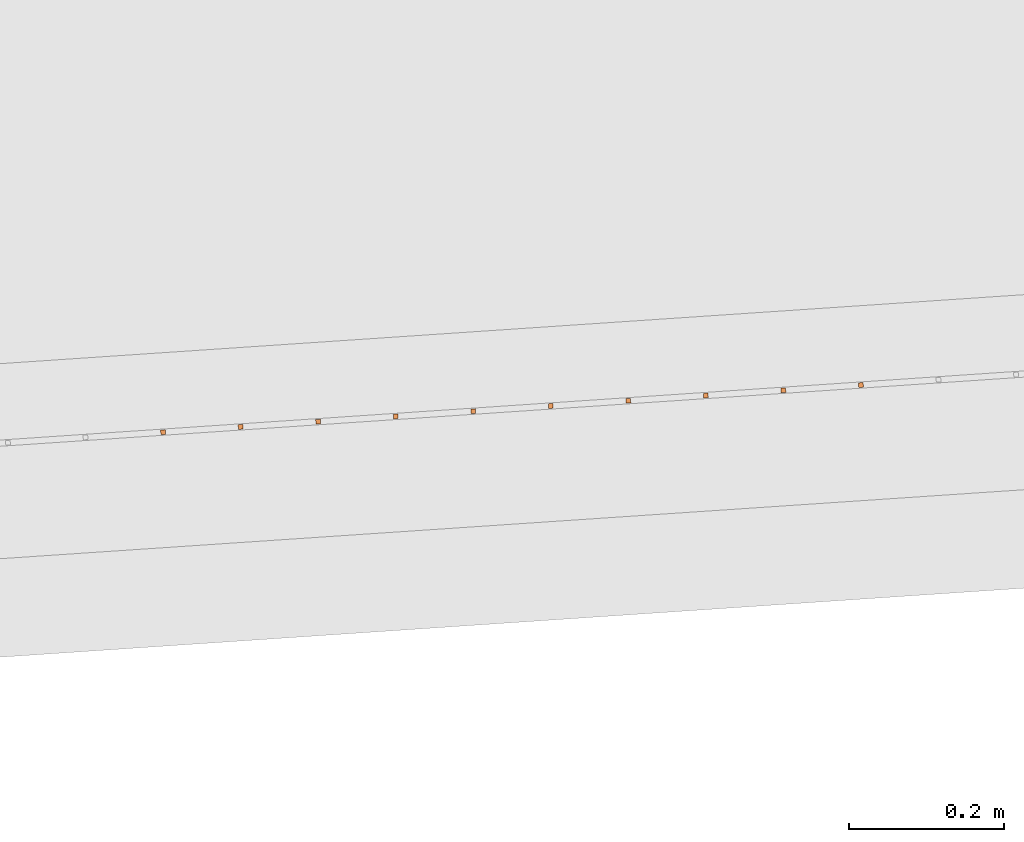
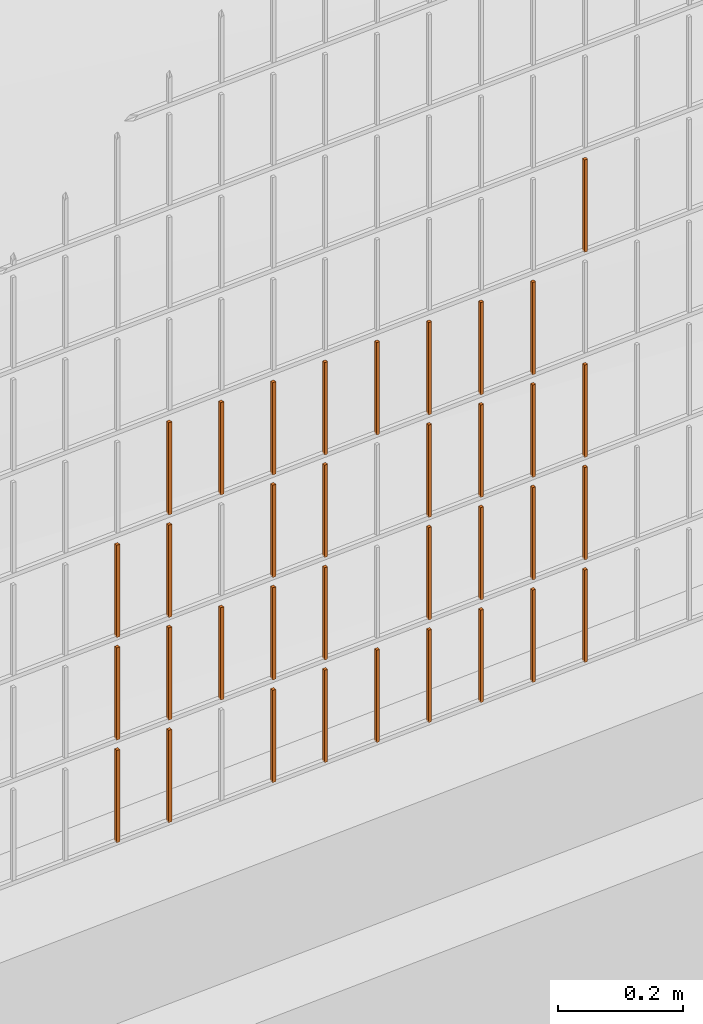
# One storey, part 398 of 1809: 35 proxies, 1 element without a shape of its own.
"""IFC2X3 building model written with IfcOpenShell, lengths in millimetres."""

from ifc_helpers import new_model, entity, si_unit, converted_unit, derived_unit, money_unit, direction, frame, origin_with_axes, place, context, subcontext, project, spatial, faceted_brep, source, transform, mapped, material, type_object, element, aggregate, save


model = new_model("IFC2X3")

# Units and contexts
model_context = context("Model", 3, precision=0.01, world=origin_with_axes(), true_north=direction((0.0, 1.0)))
body_context = subcontext(model_context, "Body", "Model", "MODEL_VIEW")
ifc_project = project(units=[si_unit("LENGTHUNIT", "METRE", prefix="MILLI"), si_unit("AREAUNIT", "SQUARE_METRE"), si_unit("VOLUMEUNIT", "CUBIC_METRE"), converted_unit("PLANEANGLEUNIT", "DEGREE", entity("IfcPlaneAngleMeasure", 0.0174532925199), si_unit("PLANEANGLEUNIT", "RADIAN"), dimensions=[0, 0, 0, 0, 0, 0, 0]), si_unit("SOLIDANGLEUNIT", "STERADIAN"), money_unit("EUR"), converted_unit("TIMEUNIT", "Year", entity("IfcTimeMeasure", 31556926.0), si_unit("TIMEUNIT", "SECOND"), dimensions=[0, 0, 1, 0, 0, 0, 0]), si_unit("MASSUNIT", "GRAM", prefix="KILO"), si_unit("THERMODYNAMICTEMPERATUREUNIT", "DEGREE_CELSIUS"), si_unit("LUMINOUSINTENSITYUNIT", "LUMEN"), si_unit("ENERGYUNIT", "JOULE", prefix="MEGA"), derived_unit("THERMALCONDUCTANCEUNIT", [(si_unit("POWERUNIT", "WATT"), 1), (si_unit("LENGTHUNIT", "METRE"), -1), (si_unit("THERMODYNAMICTEMPERATUREUNIT", "KELVIN"), -1)]), derived_unit("SPECIFICHEATCAPACITYUNIT", [(si_unit("ENERGYUNIT", "JOULE"), 1), (si_unit("MASSUNIT", "GRAM", prefix="KILO"), -1), (si_unit("THERMODYNAMICTEMPERATUREUNIT", "KELVIN"), -1)]), derived_unit("MASSDENSITYUNIT", [(si_unit("MASSUNIT", "GRAM", prefix="KILO"), 1), (si_unit("VOLUMEUNIT", "CUBIC_METRE"), -1)])], contexts=[model_context])

# Site, building, storey
site_placement = place(None, origin_with_axes())
site = spatial("IfcSite", under=ifc_project, at=site_placement, Name="Politse- ja Piirivalveameti ning Päästeameti ühishoone", CompositionType="ELEMENT")
building_placement = place(site_placement, origin_with_axes())
building = spatial("IfcBuilding", under=site, at=building_placement, Name="Politse- ja Piirivalveameti ning Päästeameti ühishoone", CompositionType="ELEMENT")
storey_placement = place(building_placement, origin_with_axes())
storey = spatial("IfcBuildingStorey", under=building, at=storey_placement, Name="Esimene korrus", CompositionType="ELEMENT", Elevation=0.0)

# Proxies
building_element_proxy_type_1 = type_object("IfcBuildingElementProxyType", Name="Railing Type", PredefinedType="NOTDEFINED")
proxy_1_placement = place(storey_placement, frame((89252.001212, -29183.4766571, 203.661247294), z_axis=(0.0, 0.0, 1.0), x_axis=(1.0, 0.0, 0.0)))
proxy_1 = element("IfcBuildingElementProxy", 1, at=proxy_1_placement, inside=storey, type_object=building_element_proxy_type_1, Name="PIIRDEAED")
ifc_material = material(Name="ET-03_Raud")
building_element_proxy_type_2 = type_object("IfcBuildingElementProxyType", Name="IfcBuildingElementProxy", PredefinedType="NOTDEFINED")
shared_shape_1 = source(origin_with_axes(), body_context, "Body", "Brep", [
    faceted_brep([(3.0, 3.0, -0.000752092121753), (-3.0, 3.0, -0.000752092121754), (-3.0, 3.0, 179.99926046), (3.0, 3.0, 179.99926046), (3.0, -3.0, 0.000752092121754), (-3.0, -3.0, 0.000752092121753), (-3.0, -3.0, 180.000764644), (3.0, -3.0, 180.000764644)], [[[0, 1, 2, 3]], [[0, 4, 5, 1]], [[1, 5, 6, 2]], [[3, 2, 6, 7]], [[4, 0, 3, 7]], [[5, 4, 7, 6]]]),
])
proxy_2_placement = place(proxy_1_placement, frame((-10203.4379036, -17986.9784856, 24.6705816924), z_axis=(0.0, 0.0, 1.0), x_axis=(1.0, 0.0, 0.0)))
proxy_2 = element("IfcBuildingElementProxy", 2, at=proxy_2_placement, type_object=building_element_proxy_type_2, material=ifc_material, Name="BALUSTER - 001", context=body_context, shape_type="MappedRepresentation", body=[
    mapped(shared_shape_1, transform((0.0, 0.0, 0.0), x_axis=(-0.0673926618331, 0.997726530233, 0.0), y_axis=(-0.997726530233, -0.0673926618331, 0.0), z_axis=(0.0, 0.0, 1.0))),
])
shared_shape_2 = source(origin_with_axes(), body_context, "Body", "Brep", [
    faceted_brep([(3.0, 3.0, -0.000752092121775), (-3.0, 3.0, -0.000752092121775), (-3.0, 3.0, 179.99926046), (3.0, 3.0, 179.99926046), (3.0, -3.0, 0.000752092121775), (-3.0, -3.0, 0.000752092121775), (-3.0, -3.0, 180.000764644), (3.0, -3.0, 180.000764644)], [[[0, 1, 2, 3]], [[0, 4, 5, 1]], [[1, 5, 6, 2]], [[3, 2, 6, 7]], [[4, 0, 3, 7]], [[5, 4, 7, 6]]]),
])
proxy_3_placement = place(proxy_1_placement, frame((-10802.0738217, -18027.4140827, 24.5201632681), z_axis=(0.0, 0.0, 1.0), x_axis=(1.0, 0.0, 0.0)))
proxy_3 = element("IfcBuildingElementProxy", 3, at=proxy_3_placement, type_object=building_element_proxy_type_2, material=ifc_material, Name="BALUSTER - 001", context=body_context, shape_type="MappedRepresentation", body=[
    mapped(shared_shape_2, transform((0.0, 0.0, 0.0), x_axis=(-0.0673926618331, 0.997726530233, 0.0), y_axis=(-0.997726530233, -0.0673926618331, 0.0), z_axis=(0.0, 0.0, 1.0))),
])
shared_shape_3 = source(origin_with_axes(), body_context, "Body", "Brep", [
    faceted_brep([(3.0, 3.0, -0.000752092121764), (-3.0, 3.0, -0.000752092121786), (-3.0, 3.0, 179.99926046), (3.0, 3.0, 179.99926046), (3.0, -3.0, 0.000752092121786), (-3.0, -3.0, 0.000752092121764), (-3.0, -3.0, 180.000764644), (3.0, -3.0, 180.000764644)], [[[0, 1, 2, 3]], [[0, 4, 5, 1]], [[1, 5, 6, 2]], [[3, 2, 6, 7]], [[4, 0, 3, 7]], [[5, 4, 7, 6]]]),
])
proxy_4_placement = place(proxy_1_placement, frame((-10502.7558626, -18007.1962842, 24.5953724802), z_axis=(0.0, 0.0, 1.0), x_axis=(1.0, 0.0, 0.0)))
proxy_4 = element("IfcBuildingElementProxy", 4, at=proxy_4_placement, type_object=building_element_proxy_type_2, material=ifc_material, Name="BALUSTER - 001", context=body_context, shape_type="MappedRepresentation", body=[
    mapped(shared_shape_3, transform((0.0, 0.0, 0.0), x_axis=(-0.0673926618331, 0.997726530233, 0.0), y_axis=(-0.997726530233, -0.0673926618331, 0.0), z_axis=(0.0, 0.0, 1.0))),
])
shared_shape_4 = source(origin_with_axes(), body_context, "Body", "Brep", [
    faceted_brep([(3.0, 3.0, -0.000752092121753), (-3.0, 3.0, -0.000752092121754), (-3.0, 3.0, 179.99926046), (3.0, 3.0, 179.99926046), (3.0, -3.0, 0.000752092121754), (-3.0, -3.0, 0.000752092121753), (-3.0, -3.0, 180.000764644), (3.0, -3.0, 180.000764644)], [[[0, 1, 2, 3]], [[0, 4, 5, 1]], [[1, 5, 6, 2]], [[3, 2, 6, 7]], [[4, 0, 3, 7]], [[5, 4, 7, 6]]]),
])
proxy_5_placement = place(proxy_1_placement, frame((-10203.4379036, -17986.9784856, 224.670581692), z_axis=(0.0, 0.0, 1.0), x_axis=(1.0, 0.0, 0.0)))
proxy_5 = element("IfcBuildingElementProxy", 5, at=proxy_5_placement, type_object=building_element_proxy_type_2, material=ifc_material, Name="BALUSTER - 001", context=body_context, shape_type="MappedRepresentation", body=[
    mapped(shared_shape_4, transform((0.0, 0.0, 0.0), x_axis=(-0.0673926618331, 0.997726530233, 0.0), y_axis=(-0.997726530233, -0.0673926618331, 0.0), z_axis=(0.0, 0.0, 1.0))),
])
shared_shape_5 = source(origin_with_axes(), body_context, "Body", "Brep", [
    faceted_brep([(3.0, 3.0, -0.000752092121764), (-3.0, 3.0, -0.000752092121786), (-3.0, 3.0, 179.99926046), (3.0, 3.0, 179.99926046), (3.0, -3.0, 0.000752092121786), (-3.0, -3.0, 0.000752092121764), (-3.0, -3.0, 180.000764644), (3.0, -3.0, 180.000764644)], [[[0, 1, 2, 3]], [[0, 4, 5, 1]], [[1, 5, 6, 2]], [[3, 2, 6, 7]], [[4, 0, 3, 7]], [[5, 4, 7, 6]]]),
])
proxy_6_placement = place(proxy_1_placement, frame((-10502.7558626, -18007.1962842, 224.59537248), z_axis=(0.0, 0.0, 1.0), x_axis=(1.0, 0.0, 0.0)))
proxy_6 = element("IfcBuildingElementProxy", 6, at=proxy_6_placement, type_object=building_element_proxy_type_2, material=ifc_material, Name="BALUSTER - 001", context=body_context, shape_type="MappedRepresentation", body=[
    mapped(shared_shape_5, transform((0.0, 0.0, 0.0), x_axis=(-0.0673926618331, 0.997726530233, 0.0), y_axis=(-0.997726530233, -0.0673926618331, 0.0), z_axis=(0.0, 0.0, 1.0))),
])
shared_shape_6 = source(origin_with_axes(), body_context, "Body", "Brep", [
    faceted_brep([(3.0, 3.0, -0.000752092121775), (-3.0, 3.0, -0.000752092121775), (-3.0, 3.0, 179.99926046), (3.0, 3.0, 179.99926046), (3.0, -3.0, 0.000752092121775), (-3.0, -3.0, 0.000752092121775), (-3.0, -3.0, 180.000764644), (3.0, -3.0, 180.000764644)], [[[0, 1, 2, 3]], [[0, 4, 5, 1]], [[1, 5, 6, 2]], [[3, 2, 6, 7]], [[4, 0, 3, 7]], [[5, 4, 7, 6]]]),
])
proxy_7_placement = place(proxy_1_placement, frame((-10802.0738217, -18027.4140827, 224.520163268), z_axis=(0.0, 0.0, 1.0), x_axis=(1.0, 0.0, 0.0)))
proxy_7 = element("IfcBuildingElementProxy", 7, at=proxy_7_placement, type_object=building_element_proxy_type_2, material=ifc_material, Name="BALUSTER - 001", context=body_context, shape_type="MappedRepresentation", body=[
    mapped(shared_shape_6, transform((0.0, 0.0, 0.0), x_axis=(-0.0673926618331, 0.997726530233, 0.0), y_axis=(-0.997726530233, -0.0673926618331, 0.0), z_axis=(0.0, 0.0, 1.0))),
])
proxy_8_placement = place(proxy_1_placement, frame((-11001.6191277, -18040.8926151, 224.470023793), z_axis=(0.0, 0.0, 1.0), x_axis=(1.0, 0.0, 0.0)))
proxy_8 = element("IfcBuildingElementProxy", 8, at=proxy_8_placement, type_object=building_element_proxy_type_2, material=ifc_material, Name="BALUSTER - 001", context=body_context, shape_type="MappedRepresentation", body=[
    mapped(shared_shape_6, transform((0.0, 0.0, 0.0), x_axis=(-0.0673926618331, 0.997726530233, 0.0), y_axis=(-0.997726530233, -0.0673926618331, 0.0), z_axis=(0.0, 0.0, 1.0))),
])
proxy_9_placement = place(proxy_1_placement, frame((-10802.0738217, -18027.4140827, 424.520163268), z_axis=(0.0, 0.0, 1.0), x_axis=(1.0, 0.0, 0.0)))
proxy_9 = element("IfcBuildingElementProxy", 9, at=proxy_9_placement, type_object=building_element_proxy_type_2, material=ifc_material, Name="BALUSTER - 001", context=body_context, shape_type="MappedRepresentation", body=[
    mapped(shared_shape_6, transform((0.0, 0.0, 0.0), x_axis=(-0.0673926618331, 0.997726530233, 0.0), y_axis=(-0.997726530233, -0.0673926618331, 0.0), z_axis=(0.0, 0.0, 1.0))),
])
proxy_10_placement = place(proxy_1_placement, frame((-11001.6191277, -18040.8926151, 424.470023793), z_axis=(0.0, 0.0, 1.0), x_axis=(1.0, 0.0, 0.0)))
proxy_10 = element("IfcBuildingElementProxy", 10, at=proxy_10_placement, type_object=building_element_proxy_type_2, material=ifc_material, Name="BALUSTER - 001", context=body_context, shape_type="MappedRepresentation", body=[
    mapped(shared_shape_6, transform((0.0, 0.0, 0.0), x_axis=(-0.0673926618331, 0.997726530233, 0.0), y_axis=(-0.997726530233, -0.0673926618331, 0.0), z_axis=(0.0, 0.0, 1.0))),
])
shared_shape_7 = source(origin_with_axes(), body_context, "Body", "Brep", [
    faceted_brep([(3.0, 3.0, -0.000752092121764), (-3.0, 3.0, -0.000752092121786), (-3.0, 3.0, 179.99926046), (3.0, 3.0, 179.99926046), (3.0, -3.0, 0.000752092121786), (-3.0, -3.0, 0.000752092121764), (-3.0, -3.0, 180.000764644), (3.0, -3.0, 180.000764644)], [[[0, 1, 2, 3]], [[0, 4, 5, 1]], [[1, 5, 6, 2]], [[3, 2, 6, 7]], [[4, 0, 3, 7]], [[5, 4, 7, 6]]]),
])
proxy_11_placement = place(proxy_1_placement, frame((-10402.9832096, -18000.457018, 224.620442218), z_axis=(0.0, 0.0, 1.0), x_axis=(1.0, 0.0, 0.0)))
proxy_11 = element("IfcBuildingElementProxy", 11, at=proxy_11_placement, type_object=building_element_proxy_type_2, material=ifc_material, Name="BALUSTER - 001", context=body_context, shape_type="MappedRepresentation", body=[
    mapped(shared_shape_7, transform((0.0, 0.0, 0.0), x_axis=(-0.0673926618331, 0.997726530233, 0.0), y_axis=(-0.997726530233, -0.0673926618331, 0.0), z_axis=(0.0, 0.0, 1.0))),
])
shared_shape_8 = source(origin_with_axes(), body_context, "Body", "Brep", [
    faceted_brep([(3.0, 3.0, -0.000752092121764), (-3.0, 3.0, -0.000752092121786), (-3.0, 3.0, 179.99926046), (3.0, 3.0, 179.99926046), (3.0, -3.0, 0.000752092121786), (-3.0, -3.0, 0.000752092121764), (-3.0, -3.0, 180.000764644), (3.0, -3.0, 180.000764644)], [[[0, 1, 2, 3]], [[0, 4, 5, 1]], [[1, 5, 6, 2]], [[3, 2, 6, 7]], [[4, 0, 3, 7]], [[5, 4, 7, 6]]]),
])
proxy_12_placement = place(proxy_1_placement, frame((-10402.9832096, -18000.457018, 424.620442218), z_axis=(0.0, 0.0, 1.0), x_axis=(1.0, 0.0, 0.0)))
proxy_12 = element("IfcBuildingElementProxy", 12, at=proxy_12_placement, type_object=building_element_proxy_type_2, material=ifc_material, Name="BALUSTER - 001", context=body_context, shape_type="MappedRepresentation", body=[
    mapped(shared_shape_8, transform((0.0, 0.0, 0.0), x_axis=(-0.0673926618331, 0.997726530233, 0.0), y_axis=(-0.997726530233, -0.0673926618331, 0.0), z_axis=(0.0, 0.0, 1.0))),
])
proxy_13_placement = place(proxy_1_placement, frame((-10502.7558626, -18007.1962842, 424.59537248), z_axis=(0.0, 0.0, 1.0), x_axis=(1.0, 0.0, 0.0)))
proxy_13 = element("IfcBuildingElementProxy", 13, at=proxy_13_placement, type_object=building_element_proxy_type_2, material=ifc_material, Name="BALUSTER - 001", context=body_context, shape_type="MappedRepresentation", body=[
    mapped(shared_shape_8, transform((0.0, 0.0, 0.0), x_axis=(-0.0673926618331, 0.997726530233, 0.0), y_axis=(-0.997726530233, -0.0673926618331, 0.0), z_axis=(0.0, 0.0, 1.0))),
])
proxy_14_placement = place(proxy_1_placement, frame((-10702.3011687, -18020.6748165, 424.545233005), z_axis=(0.0, 0.0, 1.0), x_axis=(1.0, 0.0, 0.0)))
proxy_14 = element("IfcBuildingElementProxy", 14, at=proxy_14_placement, type_object=building_element_proxy_type_2, material=ifc_material, Name="BALUSTER - 001", context=body_context, shape_type="MappedRepresentation", body=[
    mapped(shared_shape_8, transform((0.0, 0.0, 0.0), x_axis=(-0.0673926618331, 0.997726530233, 0.0), y_axis=(-0.997726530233, -0.0673926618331, 0.0), z_axis=(0.0, 0.0, 1.0))),
])
proxy_15_placement = place(proxy_1_placement, frame((-10402.9832096, -18000.457018, 624.620442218), z_axis=(0.0, 0.0, 1.0), x_axis=(1.0, 0.0, 0.0)))
proxy_15 = element("IfcBuildingElementProxy", 15, at=proxy_15_placement, type_object=building_element_proxy_type_2, material=ifc_material, Name="BALUSTER - 001", context=body_context, shape_type="MappedRepresentation", body=[
    mapped(shared_shape_8, transform((0.0, 0.0, 0.0), x_axis=(-0.0673926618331, 0.997726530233, 0.0), y_axis=(-0.997726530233, -0.0673926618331, 0.0), z_axis=(0.0, 0.0, 1.0))),
])
shared_shape_9 = source(origin_with_axes(), body_context, "Body", "Brep", [
    faceted_brep([(3.0, 3.0, -0.000752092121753), (-3.0, 3.0, -0.000752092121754), (-3.0, 3.0, 179.99926046), (3.0, 3.0, 179.99926046), (3.0, -3.0, 0.000752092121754), (-3.0, -3.0, 0.000752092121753), (-3.0, -3.0, 180.000764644), (3.0, -3.0, 180.000764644)], [[[0, 1, 2, 3]], [[0, 4, 5, 1]], [[1, 5, 6, 2]], [[3, 2, 6, 7]], [[4, 0, 3, 7]], [[5, 4, 7, 6]]]),
])
proxy_16_placement = place(proxy_1_placement, frame((-10203.4379036, -17986.9784856, 824.670581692), z_axis=(0.0, 0.0, 1.0), x_axis=(1.0, 0.0, 0.0)))
proxy_16 = element("IfcBuildingElementProxy", 16, at=proxy_16_placement, type_object=building_element_proxy_type_2, material=ifc_material, Name="BALUSTER - 001", context=body_context, shape_type="MappedRepresentation", body=[
    mapped(shared_shape_9, transform((0.0, 0.0, 0.0), x_axis=(-0.0673926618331, 0.997726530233, 0.0), y_axis=(-0.997726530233, -0.0673926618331, 0.0), z_axis=(0.0, 0.0, 1.0))),
])
shared_shape_10 = source(origin_with_axes(), body_context, "Body", "Brep", [
    faceted_brep([(3.0, 3.0, -0.000752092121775), (-3.0, 3.0, -0.000752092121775), (-3.0, 3.0, 179.99926046), (3.0, 3.0, 179.99926046), (3.0, -3.0, 0.000752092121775), (-3.0, -3.0, 0.000752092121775), (-3.0, -3.0, 180.000764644), (3.0, -3.0, 180.000764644)], [[[0, 1, 2, 3]], [[0, 4, 5, 1]], [[1, 5, 6, 2]], [[3, 2, 6, 7]], [[4, 0, 3, 7]], [[5, 4, 7, 6]]]),
])
proxy_17_placement = place(proxy_1_placement, frame((-10802.0738217, -18027.4140827, 624.520163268), z_axis=(0.0, 0.0, 1.0), x_axis=(1.0, 0.0, 0.0)))
proxy_17 = element("IfcBuildingElementProxy", 17, at=proxy_17_placement, type_object=building_element_proxy_type_2, material=ifc_material, Name="BALUSTER - 001", context=body_context, shape_type="MappedRepresentation", body=[
    mapped(shared_shape_10, transform((0.0, 0.0, 0.0), x_axis=(-0.0673926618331, 0.997726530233, 0.0), y_axis=(-0.997726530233, -0.0673926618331, 0.0), z_axis=(0.0, 0.0, 1.0))),
])
shared_shape_11 = source(origin_with_axes(), body_context, "Body", "Brep", [
    faceted_brep([(3.0, 3.0, -0.000752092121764), (-3.0, 3.0, -0.000752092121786), (-3.0, 3.0, 179.99926046), (3.0, 3.0, 179.99926046), (3.0, -3.0, 0.000752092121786), (-3.0, -3.0, 0.000752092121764), (-3.0, -3.0, 180.000764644), (3.0, -3.0, 180.000764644)], [[[0, 1, 2, 3]], [[0, 4, 5, 1]], [[1, 5, 6, 2]], [[3, 2, 6, 7]], [[4, 0, 3, 7]], [[5, 4, 7, 6]]]),
])
proxy_18_placement = place(proxy_1_placement, frame((-10502.7558626, -18007.1962842, 624.59537248), z_axis=(0.0, 0.0, 1.0), x_axis=(1.0, 0.0, 0.0)))
proxy_18 = element("IfcBuildingElementProxy", 18, at=proxy_18_placement, type_object=building_element_proxy_type_2, material=ifc_material, Name="BALUSTER - 001", context=body_context, shape_type="MappedRepresentation", body=[
    mapped(shared_shape_11, transform((0.0, 0.0, 0.0), x_axis=(-0.0673926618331, 0.997726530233, 0.0), y_axis=(-0.997726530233, -0.0673926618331, 0.0), z_axis=(0.0, 0.0, 1.0))),
])
shared_shape_12 = source(origin_with_axes(), body_context, "Body", "Brep", [
    faceted_brep([(3.0, 3.0, -0.000752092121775), (-3.0, 3.0, -0.000752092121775), (-3.0, 3.0, 179.99926046), (3.0, 3.0, 179.99926046), (3.0, -3.0, 0.000752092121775), (-3.0, -3.0, 0.000752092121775), (-3.0, -3.0, 180.000764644), (3.0, -3.0, 180.000764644)], [[[0, 1, 2, 3]], [[0, 4, 5, 1]], [[1, 5, 6, 2]], [[3, 2, 6, 7]], [[4, 0, 3, 7]], [[5, 4, 7, 6]]]),
])
proxy_19_placement = place(proxy_1_placement, frame((-11001.6191277, -18040.8926151, 24.4700237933), z_axis=(0.0, 0.0, 1.0), x_axis=(1.0, 0.0, 0.0)))
proxy_19 = element("IfcBuildingElementProxy", 19, at=proxy_19_placement, type_object=building_element_proxy_type_2, material=ifc_material, Name="BALUSTER - 001", context=body_context, shape_type="MappedRepresentation", body=[
    mapped(shared_shape_12, transform((0.0, 0.0, 0.0), x_axis=(-0.0673926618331, 0.997726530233, 0.0), y_axis=(-0.997726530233, -0.0673926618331, 0.0), z_axis=(0.0, 0.0, 1.0))),
])
shared_shape_13 = source(origin_with_axes(), body_context, "Body", "Brep", [
    faceted_brep([(3.0, 3.0, -0.000752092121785), (-3.0, 3.0, -0.000752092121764), (-3.0, 3.0, 179.99926046), (3.0, 3.0, 179.99926046), (3.0, -3.0, 0.000752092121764), (-3.0, -3.0, 0.000752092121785), (-3.0, -3.0, 180.000764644), (3.0, -3.0, 180.000764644)], [[[0, 1, 2, 3]], [[0, 4, 5, 1]], [[1, 5, 6, 2]], [[3, 2, 6, 7]], [[4, 0, 3, 7]], [[5, 4, 7, 6]]]),
])
proxy_20_placement = place(proxy_1_placement, frame((-11101.3917808, -18047.6318813, 224.444954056), z_axis=(0.0, 0.0, 1.0), x_axis=(1.0, 0.0, 0.0)))
proxy_20 = element("IfcBuildingElementProxy", 20, at=proxy_20_placement, type_object=building_element_proxy_type_2, material=ifc_material, Name="BALUSTER - 001", context=body_context, shape_type="MappedRepresentation", body=[
    mapped(shared_shape_13, transform((0.0, 0.0, 0.0), x_axis=(-0.0673926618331, 0.997726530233, 0.0), y_axis=(-0.997726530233, -0.0673926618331, 0.0), z_axis=(0.0, 0.0, 1.0))),
])
shared_shape_14 = source(origin_with_axes(), body_context, "Body", "Brep", [
    faceted_brep([(3.0, 3.0, -0.000752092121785), (-3.0, 3.0, -0.000752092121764), (-3.0, 3.0, 179.99926046), (3.0, 3.0, 179.99926046), (3.0, -3.0, 0.000752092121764), (-3.0, -3.0, 0.000752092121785), (-3.0, -3.0, 180.000764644), (3.0, -3.0, 180.000764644)], [[[0, 1, 2, 3]], [[0, 4, 5, 1]], [[1, 5, 6, 2]], [[3, 2, 6, 7]], [[4, 0, 3, 7]], [[5, 4, 7, 6]]]),
])
proxy_21_placement = place(proxy_1_placement, frame((-10901.8464747, -18034.1533489, 224.495093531), z_axis=(0.0, 0.0, 1.0), x_axis=(1.0, 0.0, 0.0)))
proxy_21 = element("IfcBuildingElementProxy", 21, at=proxy_21_placement, type_object=building_element_proxy_type_2, material=ifc_material, Name="BALUSTER - 001", context=body_context, shape_type="MappedRepresentation", body=[
    mapped(shared_shape_14, transform((0.0, 0.0, 0.0), x_axis=(-0.0673926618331, 0.997726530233, 0.0), y_axis=(-0.997726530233, -0.0673926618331, 0.0), z_axis=(0.0, 0.0, 1.0))),
])
proxy_22_placement = place(proxy_1_placement, frame((-11101.3917808, -18047.6318813, 424.444954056), z_axis=(0.0, 0.0, 1.0), x_axis=(1.0, 0.0, 0.0)))
proxy_22 = element("IfcBuildingElementProxy", 22, at=proxy_22_placement, type_object=building_element_proxy_type_2, material=ifc_material, Name="BALUSTER - 001", context=body_context, shape_type="MappedRepresentation", body=[
    mapped(shared_shape_14, transform((0.0, 0.0, 0.0), x_axis=(-0.0673926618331, 0.997726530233, 0.0), y_axis=(-0.997726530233, -0.0673926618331, 0.0), z_axis=(0.0, 0.0, 1.0))),
])
proxy_23_placement = place(proxy_1_placement, frame((-10901.8464747, -18034.1533489, 624.495093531), z_axis=(0.0, 0.0, 1.0), x_axis=(1.0, 0.0, 0.0)))
proxy_23 = element("IfcBuildingElementProxy", 23, at=proxy_23_placement, type_object=building_element_proxy_type_2, material=ifc_material, Name="BALUSTER - 001", context=body_context, shape_type="MappedRepresentation", body=[
    mapped(shared_shape_14, transform((0.0, 0.0, 0.0), x_axis=(-0.0673926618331, 0.997726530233, 0.0), y_axis=(-0.997726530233, -0.0673926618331, 0.0), z_axis=(0.0, 0.0, 1.0))),
])
shared_shape_15 = source(origin_with_axes(), body_context, "Body", "Brep", [
    faceted_brep([(3.0, 3.0, -0.000752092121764), (-3.0, 3.0, -0.000752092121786), (-3.0, 3.0, 179.99926046), (3.0, 3.0, 179.99926046), (3.0, -3.0, 0.000752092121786), (-3.0, -3.0, 0.000752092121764), (-3.0, -3.0, 180.000764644), (3.0, -3.0, 180.000764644)], [[[0, 1, 2, 3]], [[0, 4, 5, 1]], [[1, 5, 6, 2]], [[3, 2, 6, 7]], [[4, 0, 3, 7]], [[5, 4, 7, 6]]]),
])
proxy_24_placement = place(proxy_1_placement, frame((-10702.3011687, -18020.6748165, 624.545233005), z_axis=(0.0, 0.0, 1.0), x_axis=(1.0, 0.0, 0.0)))
proxy_24 = element("IfcBuildingElementProxy", 24, at=proxy_24_placement, type_object=building_element_proxy_type_2, material=ifc_material, Name="BALUSTER - 001", context=body_context, shape_type="MappedRepresentation", body=[
    mapped(shared_shape_15, transform((0.0, 0.0, 0.0), x_axis=(-0.0673926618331, 0.997726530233, 0.0), y_axis=(-0.997726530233, -0.0673926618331, 0.0), z_axis=(0.0, 0.0, 1.0))),
])
shared_shape_16 = source(origin_with_axes(), body_context, "Body", "Brep", [
    faceted_brep([(3.0, 3.0, -0.000752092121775), (-3.0, 3.0, -0.000752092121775), (-3.0, 3.0, 179.99926046), (3.0, 3.0, 179.99926046), (3.0, -3.0, 0.000752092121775), (-3.0, -3.0, 0.000752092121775), (-3.0, -3.0, 180.000764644), (3.0, -3.0, 180.000764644)], [[[0, 1, 2, 3]], [[0, 4, 5, 1]], [[1, 5, 6, 2]], [[3, 2, 6, 7]], [[4, 0, 3, 7]], [[5, 4, 7, 6]]]),
])
proxy_25_placement = place(proxy_1_placement, frame((-11001.6191277, -18040.8926151, 624.470023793), z_axis=(0.0, 0.0, 1.0), x_axis=(1.0, 0.0, 0.0)))
proxy_25 = element("IfcBuildingElementProxy", 25, at=proxy_25_placement, type_object=building_element_proxy_type_2, material=ifc_material, Name="BALUSTER - 001", context=body_context, shape_type="MappedRepresentation", body=[
    mapped(shared_shape_16, transform((0.0, 0.0, 0.0), x_axis=(-0.0673926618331, 0.997726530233, 0.0), y_axis=(-0.997726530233, -0.0673926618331, 0.0), z_axis=(0.0, 0.0, 1.0))),
])
shared_shape_17 = source(origin_with_axes(), body_context, "Body", "Brep", [
    faceted_brep([(3.0, 3.0, -0.000752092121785), (-3.0, 3.0, -0.000752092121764), (-3.0, 3.0, 179.99926046), (3.0, 3.0, 179.99926046), (3.0, -3.0, 0.000752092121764), (-3.0, -3.0, 0.000752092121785), (-3.0, -3.0, 180.000764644), (3.0, -3.0, 180.000764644)], [[[0, 1, 2, 3]], [[0, 4, 5, 1]], [[1, 5, 6, 2]], [[3, 2, 6, 7]], [[4, 0, 3, 7]], [[5, 4, 7, 6]]]),
])
proxy_26_placement = place(proxy_1_placement, frame((-11101.3917808, -18047.6318813, 24.4449540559), z_axis=(0.0, 0.0, 1.0), x_axis=(1.0, 0.0, 0.0)))
proxy_26 = element("IfcBuildingElementProxy", 26, at=proxy_26_placement, type_object=building_element_proxy_type_2, material=ifc_material, Name="BALUSTER - 001", context=body_context, shape_type="MappedRepresentation", body=[
    mapped(shared_shape_17, transform((0.0, 0.0, 0.0), x_axis=(-0.0673926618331, 0.997726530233, 0.0), y_axis=(-0.997726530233, -0.0673926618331, 0.0), z_axis=(0.0, 0.0, 1.0))),
])
shared_shape_18 = source(origin_with_axes(), body_context, "Body", "Brep", [
    faceted_brep([(3.0, 3.0, -0.000752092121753), (-3.0, 3.0, -0.000752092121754), (-3.0, 3.0, 179.99926046), (3.0, 3.0, 179.99926046), (3.0, -3.0, 0.000752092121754), (-3.0, -3.0, 0.000752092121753), (-3.0, -3.0, 180.000764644), (3.0, -3.0, 180.000764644)], [[[0, 1, 2, 3]], [[0, 4, 5, 1]], [[1, 5, 6, 2]], [[3, 2, 6, 7]], [[4, 0, 3, 7]], [[5, 4, 7, 6]]]),
])
proxy_27_placement = place(proxy_1_placement, frame((-10602.5285157, -18013.9355503, 24.5703027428), z_axis=(0.0, 0.0, 1.0), x_axis=(1.0, 0.0, 0.0)))
proxy_27 = element("IfcBuildingElementProxy", 27, at=proxy_27_placement, type_object=building_element_proxy_type_2, material=ifc_material, Name="BALUSTER - 001", context=body_context, shape_type="MappedRepresentation", body=[
    mapped(shared_shape_18, transform((0.0, 0.0, 0.0), x_axis=(-0.0673926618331, 0.997726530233, 0.0), y_axis=(-0.997726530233, -0.0673926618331, 0.0), z_axis=(0.0, 0.0, 1.0))),
])
shared_shape_19 = source(origin_with_axes(), body_context, "Body", "Brep", [
    faceted_brep([(3.0, 3.0, -0.000752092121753), (-3.0, 3.0, -0.000752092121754), (-3.0, 3.0, 179.99926046), (3.0, 3.0, 179.99926046), (3.0, -3.0, 0.000752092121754), (-3.0, -3.0, 0.000752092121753), (-3.0, -3.0, 180.000764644), (3.0, -3.0, 180.000764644)], [[[0, 1, 2, 3]], [[0, 4, 5, 1]], [[1, 5, 6, 2]], [[3, 2, 6, 7]], [[4, 0, 3, 7]], [[5, 4, 7, 6]]]),
])
proxy_28_placement = place(proxy_1_placement, frame((-10203.4379036, -17986.9784856, 424.670581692), z_axis=(0.0, 0.0, 1.0), x_axis=(1.0, 0.0, 0.0)))
proxy_28 = element("IfcBuildingElementProxy", 28, at=proxy_28_placement, type_object=building_element_proxy_type_2, material=ifc_material, Name="BALUSTER - 001", context=body_context, shape_type="MappedRepresentation", body=[
    mapped(shared_shape_19, transform((0.0, 0.0, 0.0), x_axis=(-0.0673926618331, 0.997726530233, 0.0), y_axis=(-0.997726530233, -0.0673926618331, 0.0), z_axis=(0.0, 0.0, 1.0))),
])
shared_shape_20 = source(origin_with_axes(), body_context, "Body", "Brep", [
    faceted_brep([(3.0, 3.0, -0.000752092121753), (-3.0, 3.0, -0.000752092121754), (-3.0, 3.0, 179.99926046), (3.0, 3.0, 179.99926046), (3.0, -3.0, 0.000752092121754), (-3.0, -3.0, 0.000752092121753), (-3.0, -3.0, 180.000764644), (3.0, -3.0, 180.000764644)], [[[0, 1, 2, 3]], [[0, 4, 5, 1]], [[1, 5, 6, 2]], [[3, 2, 6, 7]], [[4, 0, 3, 7]], [[5, 4, 7, 6]]]),
])
proxy_29_placement = place(proxy_1_placement, frame((-10602.5285157, -18013.9355503, 624.570302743), z_axis=(0.0, 0.0, 1.0), x_axis=(1.0, 0.0, 0.0)))
proxy_29 = element("IfcBuildingElementProxy", 29, at=proxy_29_placement, type_object=building_element_proxy_type_2, material=ifc_material, Name="BALUSTER - 001", context=body_context, shape_type="MappedRepresentation", body=[
    mapped(shared_shape_20, transform((0.0, 0.0, 0.0), x_axis=(-0.0673926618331, 0.997726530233, 0.0), y_axis=(-0.997726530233, -0.0673926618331, 0.0), z_axis=(0.0, 0.0, 1.0))),
])
shared_shape_21 = source(origin_with_axes(), body_context, "Body", "Brep", [
    faceted_brep([(3.0, 3.0, -0.000752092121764), (-3.0, 3.0, -0.000752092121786), (-3.0, 3.0, 179.99926046), (3.0, 3.0, 179.99926046), (3.0, -3.0, 0.000752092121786), (-3.0, -3.0, 0.000752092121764), (-3.0, -3.0, 180.000764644), (3.0, -3.0, 180.000764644)], [[[0, 1, 2, 3]], [[0, 4, 5, 1]], [[1, 5, 6, 2]], [[3, 2, 6, 7]], [[4, 0, 3, 7]], [[5, 4, 7, 6]]]),
])
proxy_30_placement = place(proxy_1_placement, frame((-10402.9832096, -18000.457018, 24.6204422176), z_axis=(0.0, 0.0, 1.0), x_axis=(1.0, 0.0, 0.0)))
proxy_30 = element("IfcBuildingElementProxy", 30, at=proxy_30_placement, type_object=building_element_proxy_type_2, material=ifc_material, Name="BALUSTER - 001", context=body_context, shape_type="MappedRepresentation", body=[
    mapped(shared_shape_21, transform((0.0, 0.0, 0.0), x_axis=(-0.0673926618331, 0.997726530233, 0.0), y_axis=(-0.997726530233, -0.0673926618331, 0.0), z_axis=(0.0, 0.0, 1.0))),
])
proxy_31_placement = place(proxy_1_placement, frame((-10702.3011687, -18020.6748165, 24.5452330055), z_axis=(0.0, 0.0, 1.0), x_axis=(1.0, 0.0, 0.0)))
proxy_31 = element("IfcBuildingElementProxy", 31, at=proxy_31_placement, type_object=building_element_proxy_type_2, material=ifc_material, Name="BALUSTER - 001", context=body_context, shape_type="MappedRepresentation", body=[
    mapped(shared_shape_21, transform((0.0, 0.0, 0.0), x_axis=(-0.0673926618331, 0.997726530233, 0.0), y_axis=(-0.997726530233, -0.0673926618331, 0.0), z_axis=(0.0, 0.0, 1.0))),
])
shared_shape_22 = source(origin_with_axes(), body_context, "Body", "Brep", [
    faceted_brep([(3.0, 3.0, -0.000752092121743), (-3.0, 3.0, -0.000752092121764), (-3.0, 3.0, 179.99926046), (3.0, 3.0, 179.99926046), (3.0, -3.0, 0.000752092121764), (-3.0, -3.0, 0.000752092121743), (-3.0, -3.0, 180.000764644), (3.0, -3.0, 180.000764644)], [[[0, 1, 2, 3]], [[0, 4, 5, 1]], [[1, 5, 6, 2]], [[3, 2, 6, 7]], [[4, 0, 3, 7]], [[5, 4, 7, 6]]]),
])
proxy_32_placement = place(proxy_1_placement, frame((-10303.2105566, -17993.7177518, 224.645511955), z_axis=(0.0, 0.0, 1.0), x_axis=(1.0, 0.0, 0.0)))
proxy_32 = element("IfcBuildingElementProxy", 32, at=proxy_32_placement, type_object=building_element_proxy_type_2, material=ifc_material, Name="BALUSTER - 001", context=body_context, shape_type="MappedRepresentation", body=[
    mapped(shared_shape_22, transform((0.0, 0.0, 0.0), x_axis=(-0.0673926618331, 0.997726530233, 0.0), y_axis=(-0.997726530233, -0.0673926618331, 0.0), z_axis=(0.0, 0.0, 1.0))),
])
proxy_33_placement = place(proxy_1_placement, frame((-10303.2105566, -17993.7177518, 424.645511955), z_axis=(0.0, 0.0, 1.0), x_axis=(1.0, 0.0, 0.0)))
proxy_33 = element("IfcBuildingElementProxy", 33, at=proxy_33_placement, type_object=building_element_proxy_type_2, material=ifc_material, Name="BALUSTER - 001", context=body_context, shape_type="MappedRepresentation", body=[
    mapped(shared_shape_22, transform((0.0, 0.0, 0.0), x_axis=(-0.0673926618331, 0.997726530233, 0.0), y_axis=(-0.997726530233, -0.0673926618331, 0.0), z_axis=(0.0, 0.0, 1.0))),
])
shared_shape_23 = source(origin_with_axes(), body_context, "Body", "Brep", [
    faceted_brep([(3.0, 3.0, -0.000752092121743), (-3.0, 3.0, -0.000752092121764), (-3.0, 3.0, 179.99926046), (3.0, 3.0, 179.99926046), (3.0, -3.0, 0.000752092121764), (-3.0, -3.0, 0.000752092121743), (-3.0, -3.0, 180.000764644), (3.0, -3.0, 180.000764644)], [[[0, 1, 2, 3]], [[0, 4, 5, 1]], [[1, 5, 6, 2]], [[3, 2, 6, 7]], [[4, 0, 3, 7]], [[5, 4, 7, 6]]]),
])
proxy_34_placement = place(proxy_1_placement, frame((-10303.2105566, -17993.7177518, 24.645511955), z_axis=(0.0, 0.0, 1.0), x_axis=(1.0, 0.0, 0.0)))
proxy_34 = element("IfcBuildingElementProxy", 34, at=proxy_34_placement, type_object=building_element_proxy_type_2, material=ifc_material, Name="BALUSTER - 001", context=body_context, shape_type="MappedRepresentation", body=[
    mapped(shared_shape_23, transform((0.0, 0.0, 0.0), x_axis=(-0.0673926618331, 0.997726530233, 0.0), y_axis=(-0.997726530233, -0.0673926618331, 0.0), z_axis=(0.0, 0.0, 1.0))),
])
shared_shape_24 = source(origin_with_axes(), body_context, "Body", "Brep", [
    faceted_brep([(3.0, 3.0, -0.000752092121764), (-3.0, 3.0, -0.000752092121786), (-3.0, 3.0, 179.99926046), (3.0, 3.0, 179.99926046), (3.0, -3.0, 0.000752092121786), (-3.0, -3.0, 0.000752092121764), (-3.0, -3.0, 180.000764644), (3.0, -3.0, 180.000764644)], [[[0, 1, 2, 3]], [[0, 4, 5, 1]], [[1, 5, 6, 2]], [[3, 2, 6, 7]], [[4, 0, 3, 7]], [[5, 4, 7, 6]]]),
])
proxy_35_placement = place(proxy_1_placement, frame((-10702.3011687, -18020.6748165, 224.545233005), z_axis=(0.0, 0.0, 1.0), x_axis=(1.0, 0.0, 0.0)))
proxy_35 = element("IfcBuildingElementProxy", 35, at=proxy_35_placement, type_object=building_element_proxy_type_2, material=ifc_material, Name="BALUSTER - 001", context=body_context, shape_type="MappedRepresentation", body=[
    mapped(shared_shape_24, transform((0.0, 0.0, 0.0), x_axis=(-0.0673926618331, 0.997726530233, 0.0), y_axis=(-0.997726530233, -0.0673926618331, 0.0), z_axis=(0.0, 0.0, 1.0))),
])
shared_shape_25 = source(origin_with_axes(), body_context, "Body", "Brep", [
    faceted_brep([(3.0, 3.0, -0.000752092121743), (-3.0, 3.0, -0.000752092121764), (-3.0, 3.0, 179.99926046), (3.0, 3.0, 179.99926046), (3.0, -3.0, 0.000752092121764), (-3.0, -3.0, 0.000752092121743), (-3.0, -3.0, 180.000764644), (3.0, -3.0, 180.000764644)], [[[0, 1, 2, 3]], [[0, 4, 5, 1]], [[1, 5, 6, 2]], [[3, 2, 6, 7]], [[4, 0, 3, 7]], [[5, 4, 7, 6]]]),
])
proxy_36_placement = place(proxy_1_placement, frame((-10303.2105566, -17993.7177518, 624.645511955), z_axis=(0.0, 0.0, 1.0), x_axis=(1.0, 0.0, 0.0)))
proxy_36 = element("IfcBuildingElementProxy", 36, at=proxy_36_placement, type_object=building_element_proxy_type_2, material=ifc_material, Name="BALUSTER - 001", context=body_context, shape_type="MappedRepresentation", body=[
    mapped(shared_shape_25, transform((0.0, 0.0, 0.0), x_axis=(-0.0673926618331, 0.997726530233, 0.0), y_axis=(-0.997726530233, -0.0673926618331, 0.0), z_axis=(0.0, 0.0, 1.0))),
])
aggregate(proxy_1, [proxy_2, proxy_34, proxy_30, proxy_4, proxy_27, proxy_31, proxy_3, proxy_19, proxy_26, proxy_5, proxy_32, proxy_11, proxy_6, proxy_35, proxy_7, proxy_21, proxy_8, proxy_20, proxy_28, proxy_33, proxy_12, proxy_13, proxy_14, proxy_9, proxy_10, proxy_22, proxy_36, proxy_15, proxy_18, proxy_29, proxy_24, proxy_17, proxy_23, proxy_25, proxy_16])

save(model, "model.ifc")
